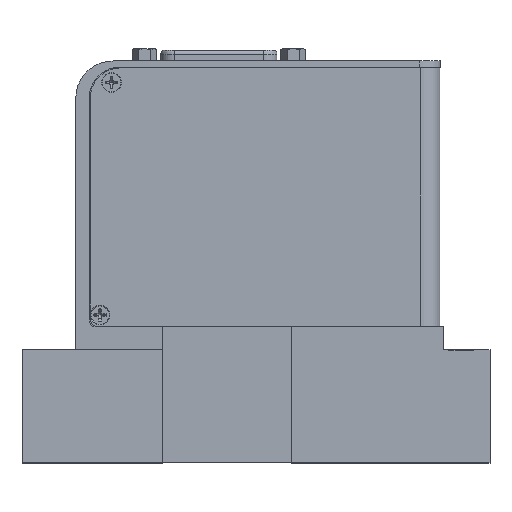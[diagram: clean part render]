
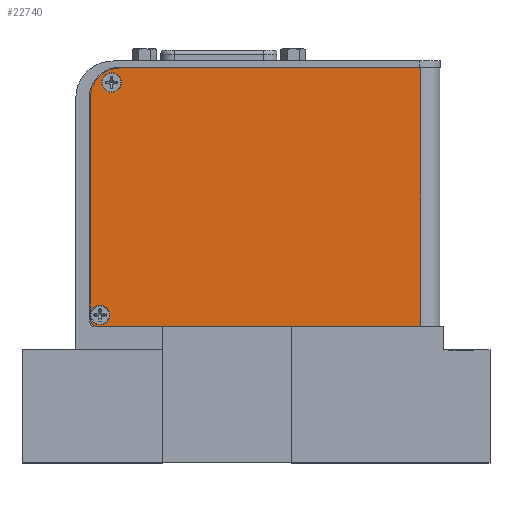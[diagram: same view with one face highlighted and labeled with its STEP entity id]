
A CAD part, top view. The second image highlights one B-rep face of the part: STEP entity #22740.
In plain terms, the highlighted planar face has unit normal (0, 0, 1).
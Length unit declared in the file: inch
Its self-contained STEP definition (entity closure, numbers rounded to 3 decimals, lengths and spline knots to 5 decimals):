
#592 = VERTEX_POINT ( 'NONE', #70795 ) ;
#2333 = EDGE_CURVE ( 'NONE', #8533, #592, #3577, .T. ) ;
#2692 = CIRCLE ( 'NONE', #16187, 0.27 ) ;
#2783 = EDGE_LOOP ( 'NONE', ( #18218, #33822 ) ) ;
#3577 = LINE ( 'NONE', #33138, #30331 ) ;
#5445 = DIRECTION ( 'NONE',  ( 1., 0., 0. ) ) ;
#5848 = CARTESIAN_POINT ( 'NONE',  ( 0.82906, 2.59884, 3.07351 ) ) ;
#6288 = CARTESIAN_POINT ( 'NONE',  ( 0.80406, 2.50084, 3.07351 ) ) ;
#6664 = AXIS2_PLACEMENT_3D ( 'NONE', #25860, #38193, #59544 ) ;
#6973 = ORIENTED_EDGE ( 'NONE', *, *, #57080, .F. ) ;
#8533 = VERTEX_POINT ( 'NONE', #51193 ) ;
#8977 = AXIS2_PLACEMENT_3D ( 'NONE', #5848, #68872, #11556 ) ;
#9207 = CARTESIAN_POINT ( 'NONE',  ( 0.91506, 2.59884, 3.07351 ) ) ;
#9342 = CIRCLE ( 'NONE', #43474, 0.063 ) ;
#9914 = EDGE_CURVE ( 'NONE', #14077, #46116, #18383, .T. ) ;
#10273 = CARTESIAN_POINT ( 'NONE',  ( 0.80406, 2.56384, 3.07351 ) ) ;
#11556 = DIRECTION ( 'NONE',  ( 1., 0., 0. ) ) ;
#11939 = VERTEX_POINT ( 'NONE', #6288 ) ;
#12779 = EDGE_LOOP ( 'NONE', ( #28539, #39999 ) ) ;
#13077 = VERTEX_POINT ( 'NONE', #36936 ) ;
#13621 = CARTESIAN_POINT ( 'NONE',  ( 1.01106, 4.51184, 3.07351 ) ) ;
#14077 = VERTEX_POINT ( 'NONE', #9207 ) ;
#14594 = ORIENTED_EDGE ( 'NONE', *, *, #2333, .F. ) ;
#15489 = VERTEX_POINT ( 'NONE', #43507 ) ;
#16187 = AXIS2_PLACEMENT_3D ( 'NONE', #13621, #42030, #51470 ) ;
#16830 = EDGE_CURVE ( 'NONE', #11939, #8533, #9342, .T. ) ;
#17903 = CARTESIAN_POINT ( 'NONE',  ( 0.93106, 4.65284, 3.07351 ) ) ;
#18218 = ORIENTED_EDGE ( 'NONE', *, *, #52418, .T. ) ;
#18383 = CIRCLE ( 'NONE', #6664, 0.086 ) ;
#18544 = LINE ( 'NONE', #44173, #67256 ) ;
#19374 = FACE_BOUND ( 'NONE', #12779, .T. ) ;
#21081 = DIRECTION ( 'NONE',  ( 0., 0., -1. ) ) ;
#22740 = ADVANCED_FACE ( 'NONE', ( #68073, #68567, #19374 ), #65616, .F. ) ;
#23597 = DIRECTION ( 'NONE',  ( 1., 0., 0. ) ) ;
#23873 = DIRECTION ( 'NONE',  ( 0., -1., 0. ) ) ;
#24544 = AXIS2_PLACEMENT_3D ( 'NONE', #43807, #32484, #27227 ) ;
#24958 = CIRCLE ( 'NONE', #8977, 0.086 ) ;
#25339 = ORIENTED_EDGE ( 'NONE', *, *, #37512, .T. ) ;
#25860 = CARTESIAN_POINT ( 'NONE',  ( 0.82906, 2.59884, 3.07351 ) ) ;
#26081 = EDGE_CURVE ( 'NONE', #46116, #14077, #24958, .T. ) ;
#27227 = DIRECTION ( 'NONE',  ( -1., 0., 0. ) ) ;
#27787 = VECTOR ( 'NONE', #62515, 39.37008 ) ;
#27829 = CARTESIAN_POINT ( 'NONE',  ( 1.01106, 4.78184, 3.07351 ) ) ;
#28539 = ORIENTED_EDGE ( 'NONE', *, *, #9914, .T. ) ;
#29115 = CARTESIAN_POINT ( 'NONE',  ( 3.66006, 2.50084, 3.07351 ) ) ;
#29296 = DIRECTION ( 'NONE',  ( 0., 0., -1. ) ) ;
#29908 = VERTEX_POINT ( 'NONE', #27829 ) ;
#30331 = VECTOR ( 'NONE', #39271, 39.37008 ) ;
#30582 = ORIENTED_EDGE ( 'NONE', *, *, #16830, .F. ) ;
#30842 = CIRCLE ( 'NONE', #59439, 0.086 ) ;
#31464 = VERTEX_POINT ( 'NONE', #29115 ) ;
#32022 = DIRECTION ( 'NONE',  ( 1., 0., 0. ) ) ;
#32484 = DIRECTION ( 'NONE',  ( 0., 0., -1. ) ) ;
#33138 = CARTESIAN_POINT ( 'NONE',  ( 0.74106, 4.78184, 3.07351 ) ) ;
#33822 = ORIENTED_EDGE ( 'NONE', *, *, #65413, .T. ) ;
#33853 = CARTESIAN_POINT ( 'NONE',  ( 1.01706, 4.65284, 3.07351 ) ) ;
#34169 = VECTOR ( 'NONE', #42204, 39.37008 ) ;
#36566 = CARTESIAN_POINT ( 'NONE',  ( 3.66006, 2.50084, 3.07351 ) ) ;
#36936 = CARTESIAN_POINT ( 'NONE',  ( 3.66006, 4.78184, 3.07351 ) ) ;
#37512 = EDGE_CURVE ( 'NONE', #11939, #31464, #58094, .T. ) ;
#38193 = DIRECTION ( 'NONE',  ( 0., 0., -1. ) ) ;
#39271 = DIRECTION ( 'NONE',  ( 0., 1., 0. ) ) ;
#39999 = ORIENTED_EDGE ( 'NONE', *, *, #26081, .T. ) ;
#42030 = DIRECTION ( 'NONE',  ( 0., 0., -1. ) ) ;
#42204 = DIRECTION ( 'NONE',  ( 1., 0., 0. ) ) ;
#43474 = AXIS2_PLACEMENT_3D ( 'NONE', #10273, #21081, #32022 ) ;
#43507 = CARTESIAN_POINT ( 'NONE',  ( 0.84506, 4.65284, 3.07351 ) ) ;
#43760 = CARTESIAN_POINT ( 'NONE',  ( 0.93106, 4.65284, 3.07351 ) ) ;
#43807 = CARTESIAN_POINT ( 'NONE',  ( 3.66006, 4.78184, 3.07351 ) ) ;
#44173 = CARTESIAN_POINT ( 'NONE',  ( 3.66006, 4.78184, 3.07351 ) ) ;
#45783 = ORIENTED_EDGE ( 'NONE', *, *, #58010, .F. ) ;
#45947 = ORIENTED_EDGE ( 'NONE', *, *, #60966, .F. ) ;
#46116 = VERTEX_POINT ( 'NONE', #73352 ) ;
#49474 = DIRECTION ( 'NONE',  ( 0., 0., -1. ) ) ;
#51193 = CARTESIAN_POINT ( 'NONE',  ( 0.74106, 2.56384, 3.07351 ) ) ;
#51470 = DIRECTION ( 'NONE',  ( -1., 0., 0. ) ) ;
#52418 = EDGE_CURVE ( 'NONE', #66887, #15489, #64578, .T. ) ;
#52932 = LINE ( 'NONE', #56862, #27787 ) ;
#56862 = CARTESIAN_POINT ( 'NONE',  ( 3.80006, 4.78184, 3.07351 ) ) ;
#57080 = EDGE_CURVE ( 'NONE', #13077, #31464, #18544, .T. ) ;
#58010 = EDGE_CURVE ( 'NONE', #592, #29908, #2692, .T. ) ;
#58094 = LINE ( 'NONE', #36566, #34169 ) ;
#59439 = AXIS2_PLACEMENT_3D ( 'NONE', #43760, #49474, #5445 ) ;
#59544 = DIRECTION ( 'NONE',  ( 1., 0., 0. ) ) ;
#60966 = EDGE_CURVE ( 'NONE', #29908, #13077, #52932, .T. ) ;
#61336 = EDGE_LOOP ( 'NONE', ( #30582, #25339, #6973, #45947, #45783, #14594 ) ) ;
#62515 = DIRECTION ( 'NONE',  ( 1., 0., 0. ) ) ;
#64578 = CIRCLE ( 'NONE', #73124, 0.086 ) ;
#65413 = EDGE_CURVE ( 'NONE', #15489, #66887, #30842, .T. ) ;
#65616 = PLANE ( 'NONE',  #24544 ) ;
#66887 = VERTEX_POINT ( 'NONE', #33853 ) ;
#67256 = VECTOR ( 'NONE', #23873, 39.37008 ) ;
#68073 = FACE_OUTER_BOUND ( 'NONE', #61336, .T. ) ;
#68567 = FACE_BOUND ( 'NONE', #2783, .T. ) ;
#68872 = DIRECTION ( 'NONE',  ( 0., 0., -1. ) ) ;
#70795 = CARTESIAN_POINT ( 'NONE',  ( 0.74106, 4.51184, 3.07351 ) ) ;
#73124 = AXIS2_PLACEMENT_3D ( 'NONE', #17903, #29296, #23597 ) ;
#73352 = CARTESIAN_POINT ( 'NONE',  ( 0.74306, 2.59884, 3.07351 ) ) ;
